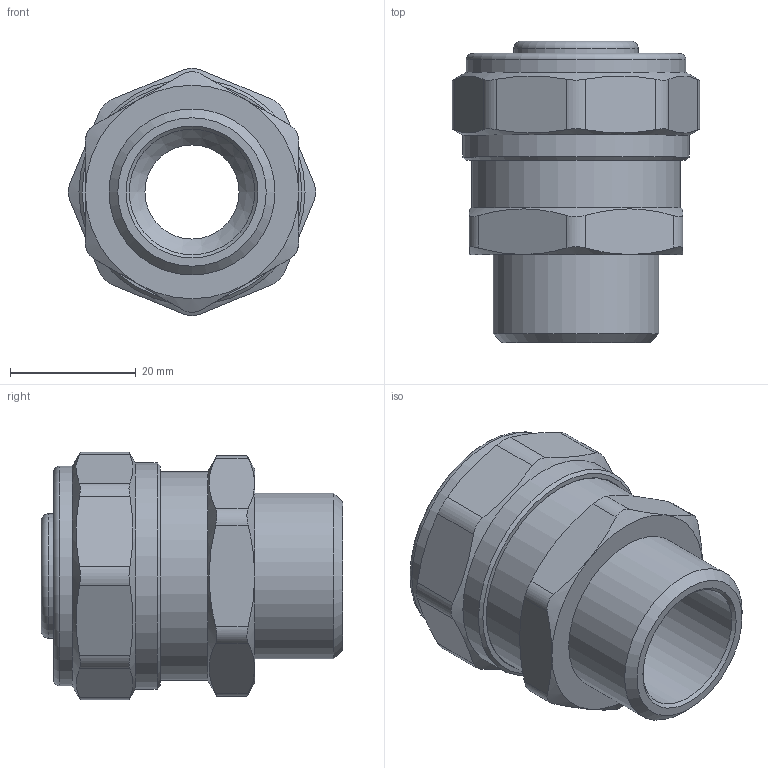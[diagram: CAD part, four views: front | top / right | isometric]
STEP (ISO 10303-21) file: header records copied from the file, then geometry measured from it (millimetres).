
FILE_DESCRIPTION(('STEP AP203'), '1');
FILE_NAME('VTm.301.N.002605', '', ('UNSPECIFIED'), ('UNSPECIFIED'), 'C3D Converter', 'C3D Toolkit', '');
FILE_SCHEMA(('CONFIG_CONTROL_DESIGN'));
Length unit declared in the file: millimetre
Products named in the file (1): ВР.302634.053.000 СБ
Bounding box: 39.39 x 48 x 39.39 mm (x, y, z)
Volume: 23294.6 mm3; surface area: 14877.3 mm2
Topology: 1 solids, 1 shells, 320 faces, 856 edges, 560 vertices
Faces by surface type: extrusion 123, plane 103, cylinder 43, torus 29, cone 22
Full cylindrical faces by diameter (mm): 15 x1, 17.4 x4, 19.8 x5, 20 x2, 26.2 x1, 26.441 x1, 26.7 x1, 30.292 x1, 33.249 x1, 35 x1, 36 x1
Entity records: 12489 total; most frequent: CARTESIAN_POINT 5326, ORIENTED_EDGE 1616, DIRECTION 1053, EDGE_CURVE 808, VERTEX_POINT 559, B_SPLINE_CURVE_WITH_KNOTS 475, VECTOR 459, EDGE_LOOP 389
